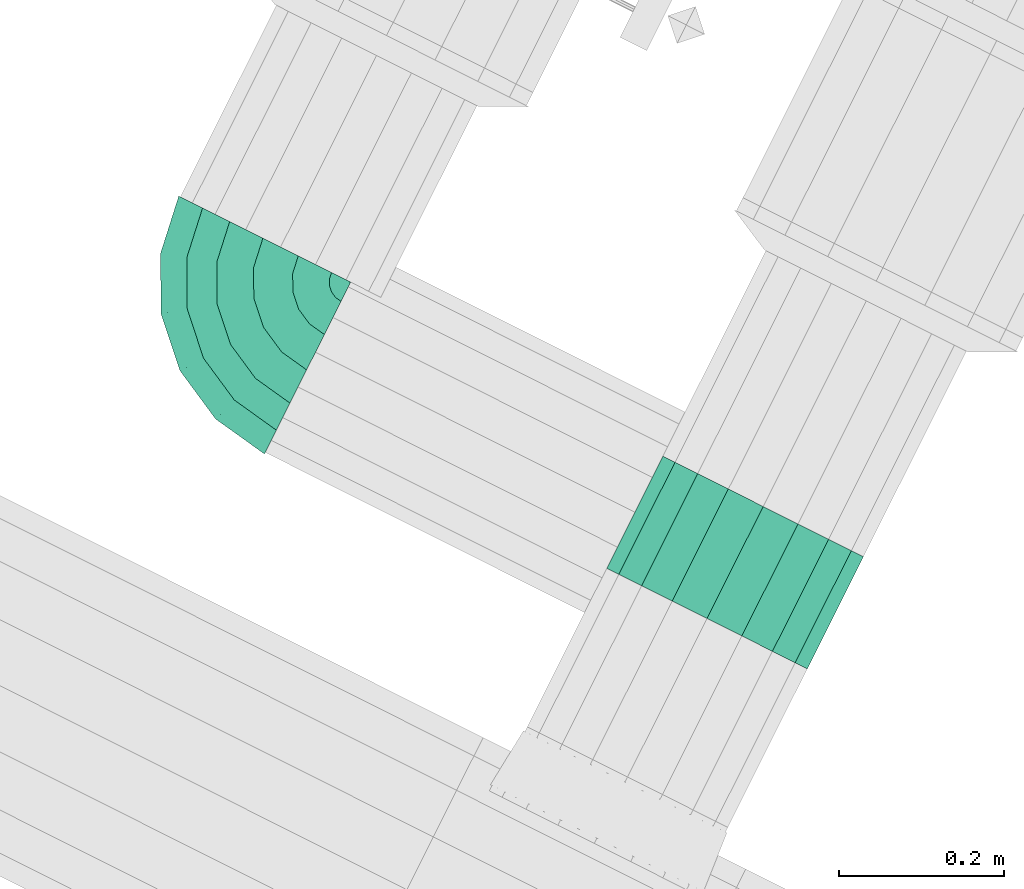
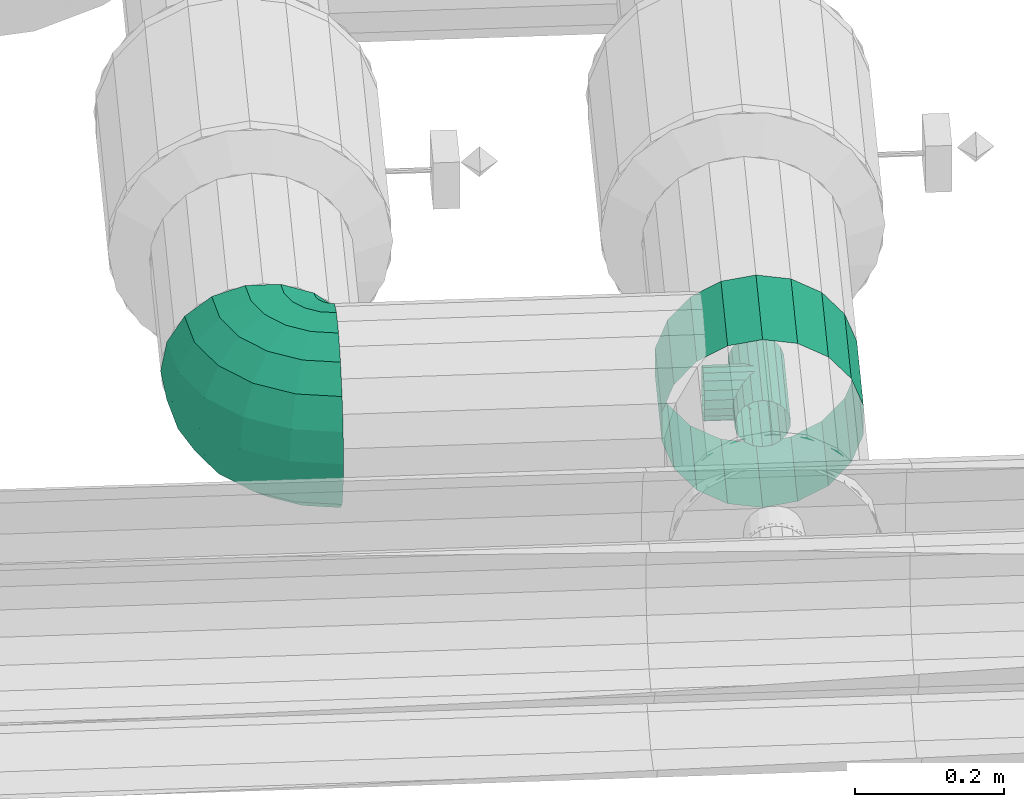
# One storey, part 37 of 152: 1 flow fitting, 1 flow segment.
"""IFC2X3 building model written with IfcOpenShell, lengths in metres."""

import ifcopenshell
import ifcopenshell.guid

model = None  # the IFC model being written
_history = None  # IfcOwnerHistory: only IFC2X3 demands one
_inside = {}  # id of a spatial element -> (the spatial element, [elements in it])
_under = {}  # id of a project, library or spatial element -> (it, [spatial elements below it])
_declared = {}  # id of a project -> (the project, [libraries it declares])
_typed = {}  # id of a type object -> (the type object, [elements of that type])
_made_of = {}  # id of a material, layer set ... -> (it, [elements and type objects made of it])


def new_model(schema):
    """Start an empty IFC model of exactly this schema.

    Asked for "IFC4X3", IfcOpenShell would pick the latest addendum, in which some entities
    have other attributes; the version numbers below select the first issue.
    IFC2X3 requires an IfcOwnerHistory on every rooted entity: one is made here for all.
    """
    global model, _history
    if schema == "IFC4X3":
        model = ifcopenshell.file(schema_version=(4, 3, 0, 0))
    else:
        model = ifcopenshell.file(schema=schema)
    _inside.clear()
    _under.clear()
    _declared.clear()
    _typed.clear()
    _made_of.clear()
    _history = None
    if model.schema == "IFC2X3":
        org = make("IfcOrganization", Name="unknown")
        user = make(
            "IfcPersonAndOrganization",
            ThePerson=make("IfcPerson", FamilyName="unknown"),
            TheOrganization=org,
        )
        app = make(
            "IfcApplication",
            ApplicationDeveloper=org,
            Version="unknown",
            ApplicationFullName="unknown",
            ApplicationIdentifier="unknown",
        )
        _history = make(
            "IfcOwnerHistory",
            OwningUser=user,
            OwningApplication=app,
            ChangeAction="ADDED",
            CreationDate=0,
        )
    return model


def make(cls, **values):
    """One entity of the class cls with the attributes given. An attribute that is None is left unset."""
    return model.create_entity(
        cls, **{name: value for name, value in values.items() if value is not None}
    )


def rooted(cls, **values):
    """An entity with a GlobalId (a new one), such as an element, a storey or a relation."""
    return make(cls, GlobalId=ifcopenshell.guid.new(), OwnerHistory=_history, **values)


def si_unit(unit_type, name, prefix=None):
    """IfcSIUnit, for example si_unit("LENGTHUNIT", "METRE", prefix="MILLI")."""
    return make("IfcSIUnit", UnitType=unit_type, Prefix=prefix, Name=name)


def derived_unit(unit_type, elements):
    """IfcDerivedUnit: a product of units, each with its exponent."""
    return make(
        "IfcDerivedUnit",
        Elements=[
            make("IfcDerivedUnitElement", Unit=unit, Exponent=power)
            for unit, power in elements
        ],
        UnitType=unit_type,
    )


def assignment(units):
    """IfcUnitAssignment: the units of a project."""
    return None if units is None else make("IfcUnitAssignment", Units=units)


def point(xyz):
    """IfcCartesianPoint."""
    return None if xyz is None else make("IfcCartesianPoint", Coordinates=xyz)


def direction(xyz):
    """IfcDirection."""
    return None if xyz is None else make("IfcDirection", DirectionRatios=xyz)


def frame(location, z_axis=None, x_axis=None):
    """IfcAxis2Placement3D, a coordinate frame: its origin and axes. An axis left out is left unset."""
    return make(
        "IfcAxis2Placement3D",
        Location=point(location),
        Axis=direction(z_axis),
        RefDirection=direction(x_axis),
    )


def origin():
    """The frame at (0, 0, 0) with its axes left unset."""
    return frame((0.0, 0.0, 0.0))


def place(relative_to, where):
    """IfcLocalPlacement: puts the frame where relative to a parent placement (None: the world)."""
    return make(
        "IfcLocalPlacement", PlacementRelTo=relative_to, RelativePlacement=where
    )


def context(
    kind, dimensions, precision=None, world=None, true_north=None, identifier=None
):
    """IfcGeometricRepresentationContext, for example the 3D "Model" context."""
    return make(
        "IfcGeometricRepresentationContext",
        ContextIdentifier=identifier,
        ContextType=kind,
        CoordinateSpaceDimension=dimensions,
        Precision=precision,
        WorldCoordinateSystem=world,
        TrueNorth=true_north,
    )


def subcontext(parent, identifier, kind, view, scale=None):
    """IfcGeometricRepresentationSubContext, for example "Body" below "Model"."""
    return make(
        "IfcGeometricRepresentationSubContext",
        ContextIdentifier=identifier,
        ContextType=kind,
        ParentContext=parent,
        TargetScale=scale,
        TargetView=view,
    )


def project(units=None, contexts=None):
    """IfcProject with its units and contexts."""
    return rooted(
        "IfcProject",
        Name="project",
        RepresentationContexts=contexts,
        UnitsInContext=assignment(units),
    )


def spatial(cls, under=None, at=None, **own):
    """A site, building, storey or space (cls), placed at a placement, below another one or the project."""
    s = rooted(cls, ObjectPlacement=at, **own)
    if under is not None:
        _under.setdefault(under.id(), (under, []))[1].append(s)
    return s


def faces_of(points, faces, orient=None, outer=None):
    """IfcFace entities. A face is a list of loops; a loop is a list of indices into points, from 0.

    orient and outer hold one flag for each loop. By default every Orientation is true, the
    first loop of a face is its IfcFaceOuterBound and the others are IfcFaceBound.
    """
    made = []
    for i, loops in enumerate(faces):
        bounds = []
        for j, loop in enumerate(loops):
            is_outer = j == 0 if outer is None else outer[i][j]
            bounds.append(
                make(
                    "IfcFaceOuterBound" if is_outer else "IfcFaceBound",
                    Bound=make("IfcPolyLoop", Polygon=[points[k] for k in loop]),
                    Orientation=True if orient is None else orient[i][j],
                )
            )
        made.append(make("IfcFace", Bounds=bounds))
    return made


def face_set(faces, orient=None, outer=None):
    """The faces of one IfcConnectedFaceSet. surface_model builds it on its shared points."""
    return ("IfcConnectedFaceSet", faces, orient, outer)


def surface_model(cls, points, shells):
    """IfcFaceBasedSurfaceModel or IfcShellBasedSurfaceModel (cls): surfaces that need not close."""
    shared = [point(p) for p in points]
    made = [make(c, CfsFaces=faces_of(shared, fs, o, b)) for c, fs, o, b in shells]
    if cls == "IfcFaceBasedSurfaceModel":
        return make(cls, FbsmFaces=made)
    return make(cls, SbsmBoundary=made)


def shape(context_of_items, identifier, shape_type, items):
    """IfcShapeRepresentation: the items that make up one representation, for example the "Body"."""
    return make(
        "IfcShapeRepresentation",
        ContextOfItems=context_of_items,
        RepresentationIdentifier=identifier,
        RepresentationType=shape_type,
        Items=items,
    )


def source(mapping_origin, context_of_items, identifier, shape_type, items):
    """IfcRepresentationMap: a shape defined once, which mapped items show again and again."""
    return make(
        "IfcRepresentationMap",
        MappingOrigin=mapping_origin,
        MappedRepresentation=shape(context_of_items, identifier, shape_type, items),
    )


def transform(
    local_origin,
    x_axis=None,
    y_axis=None,
    z_axis=None,
    scale=None,
    scale2=None,
    scale3=None,
    uniform=True,
):
    """IfcCartesianTransformationOperator3D, or its non-uniform kind. x_axis, y_axis, z_axis: its Axis1, 2, 3."""
    if uniform:
        return make(
            "IfcCartesianTransformationOperator3D",
            Axis1=direction(x_axis),
            Axis2=direction(y_axis),
            LocalOrigin=point(local_origin),
            Scale=scale,
            Axis3=direction(z_axis),
        )
    return make(
        "IfcCartesianTransformationOperator3DnonUniform",
        Axis1=direction(x_axis),
        Axis2=direction(y_axis),
        LocalOrigin=point(local_origin),
        Scale=scale,
        Axis3=direction(z_axis),
        Scale2=scale2,
        Scale3=scale3,
    )


def mapped(mapping_source, mapping_target):
    """IfcMappedItem: shows the shape of a source again, moved by a transform."""
    return make(
        "IfcMappedItem", MappingSource=mapping_source, MappingTarget=mapping_target
    )


def material(Name=None, Category=None):
    """IfcMaterial."""
    return make("IfcMaterial", Name=Name, Category=Category)


def made_of(thing, what):
    """Note that an element or type object is made of a material, layer set ...; save() writes the relation."""
    if what is not None:
        _made_of.setdefault(what.id(), (what, []))[1].append(thing)
    return thing


def type_object(cls, material=None, **own):
    """A type object (cls), such as IfcWallType, which elements share."""
    return made_of(rooted(cls, **own), material)


def type_shapes(of_type, sources):
    """Give a type object the sources (RepresentationMaps) that its elements show as mapped items."""
    of_type.RepresentationMaps = sources


def element(
    cls,
    number,
    at=None,
    inside=None,
    cuts=None,
    type_object=None,
    material=None,
    context=None,
    identifier="Body",
    shape_type=None,
    held_by="IfcProductDefinitionShape",
    body=None,
    shapes=None,
    **own,
):
    """One element of the class cls, such as IfcWall. Its Tag is "e" and its number.

    at: its placement. inside: the storey or other place that contains it. cuts: it is an
    opening in that element (IfcRelVoidsElement). A single representation is given by context,
    identifier, shape_type and body (its items); several are given by shapes. held_by: the class
    of the entity that holds the representations. save() writes the other relations.
    """
    e = rooted(cls, Tag="e%d" % number, ObjectPlacement=at, **own)
    if body is not None:
        shapes = [shape(context, identifier, shape_type, body)]
    if shapes is not None:
        e.Representation = make(held_by, Representations=shapes)
    if inside is not None:
        _inside.setdefault(inside.id(), (inside, []))[1].append(e)
    if cuts is not None:
        rooted(
            "IfcRelVoidsElement", RelatingBuildingElement=cuts, RelatedOpeningElement=e
        )
    if type_object is not None:
        _typed.setdefault(type_object.id(), (type_object, []))[1].append(e)
    return made_of(e, material)


def aggregate(whole, parts):
    """IfcRelAggregates: a whole, such as a stair, and the parts it consists of."""
    return rooted("IfcRelAggregates", RelatingObject=whole, RelatedObjects=parts)


def save(model, path):
    """Write the relations noted so far, then the file.

    IfcRelAggregates (storeys below a building ...), IfcRelContainedInSpatialStructure (elements
    in a storey), IfcRelDefinesByType, IfcRelAssociatesMaterial and IfcRelDeclares: one each for
    every whole, place, type object, material and project.
    """
    for whole, parts in _under.values():
        aggregate(whole, parts)
    for where, things in _inside.values():
        rooted(
            "IfcRelContainedInSpatialStructure",
            RelatedElements=things,
            RelatingStructure=where,
        )
    for kind, things in _typed.values():
        rooted("IfcRelDefinesByType", RelatedObjects=things, RelatingType=kind)
    for what, things in _made_of.values():
        rooted("IfcRelAssociatesMaterial", RelatedObjects=things, RelatingMaterial=what)
    for by, libraries in _declared.values():
        rooted("IfcRelDeclares", RelatingContext=by, RelatedDefinitions=libraries)
    model.write(path)


model = new_model("IFC2X3")

# Units and contexts
model_context = context("Model", 3, precision=5.2338327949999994e-05, world=origin(), true_north=direction((0.0, 1.0)))
body_context = subcontext(model_context, "Body", "Model", "MODEL_VIEW")
ifc_project = project(units=[si_unit("LENGTHUNIT", "METRE"), si_unit("AREAUNIT", "SQUARE_METRE"), si_unit("VOLUMEUNIT", "CUBIC_METRE"), si_unit("MASSUNIT", "GRAM", prefix="KILO"), si_unit("PLANEANGLEUNIT", "RADIAN"), derived_unit("THERMALTRANSMITTANCEUNIT", [(si_unit("MASSUNIT", "GRAM", prefix="KILO"), 1), (si_unit("THERMODYNAMICTEMPERATUREUNIT", "KELVIN"), -1), (si_unit("TIMEUNIT", "SECOND"), -3)])], contexts=[model_context])

# Site, building, storey
site_placement = place(None, frame((0.0, 0.0, 0.0), z_axis=(0.0, 0.0, 1.0), x_axis=(0.8939966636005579, -0.4480736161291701, 0.0)))
site = spatial("IfcSite", under=ifc_project, at=site_placement, Name="Default", CompositionType="ELEMENT")
building_placement = place(site_placement, origin())
building = spatial("IfcBuilding", under=site, at=building_placement, CompositionType="ELEMENT")
storey_placement = place(building_placement, frame((0.0, 0.0, 2.7499999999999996)))
storey = spatial("IfcBuildingStorey", under=building, at=storey_placement, Name="1. Obergeschoss", CompositionType="ELEMENT", Elevation=2.7499999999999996)

# Flow segment
ifc_material = material(Name="IfcSurfaceStyle #1741")
distribution_element_type_1 = type_object("IfcDistributionElementType", Name="Rohrbogen 259180:Rohrbogen 259180", material=ifc_material)
shared_shape_1 = source(origin(), body_context, "Body", "SurfaceModel", [
    surface_model("IfcFaceBasedSurfaceModel", [(14.447154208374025, 6.358211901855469, 5.63564089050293), (14.488269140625, 6.351700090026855, 5.63564089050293), (14.447863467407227, 6.3603943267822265, 5.648654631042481), (14.488269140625, 6.353994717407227, 5.648654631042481), (14.410064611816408, 6.3771101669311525, 5.63564089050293), (14.41141336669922, 6.378967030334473, 5.648654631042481), (14.38062919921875, 6.406544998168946, 5.63564089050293), (14.382486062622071, 6.407893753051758, 5.648654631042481), (14.36173151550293, 6.443635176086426, 5.63564089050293), (14.363913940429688, 6.444344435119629, 5.648654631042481), (14.355219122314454, 6.484750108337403, 5.63564089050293), (14.357514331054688, 6.484750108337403, 5.648654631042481), (14.449905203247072, 6.366678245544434, 5.660098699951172), (14.488269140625, 6.360601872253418, 5.660098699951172), (14.415296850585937, 6.384312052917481, 5.660098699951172), (14.387831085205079, 6.41177781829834, 5.660098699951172), (14.370197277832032, 6.446386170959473, 5.660098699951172), (14.364120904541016, 6.484750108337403, 5.660098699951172), (14.488269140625, 6.3707250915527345, 5.668592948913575), (14.453032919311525, 6.376306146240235, 5.668592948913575), (14.421246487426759, 6.392501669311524, 5.668592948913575), (14.396021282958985, 6.417728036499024, 5.668592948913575), (14.37982459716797, 6.449514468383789, 5.668592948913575), (14.37424354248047, 6.484750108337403, 5.668592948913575), (14.488269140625, 6.383142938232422, 5.673112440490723), (14.456871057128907, 6.38811589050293, 5.673112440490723), (14.428546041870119, 6.402548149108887, 5.673112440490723), (14.406067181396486, 6.42502700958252, 5.673112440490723), (14.391634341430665, 6.453351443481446, 5.673112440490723), (14.386661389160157, 6.484750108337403, 5.673112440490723), (14.488269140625, 6.396357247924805, 5.673112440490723), (14.460954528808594, 6.400683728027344, 5.673112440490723), (14.436313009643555, 6.413238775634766, 5.673112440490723), (14.416758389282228, 6.432793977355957, 5.673112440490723), (14.404202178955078, 6.457435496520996, 5.673112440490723), (14.399876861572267, 6.484750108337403, 5.673112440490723), (14.46479150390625, 6.4124934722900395, 5.668592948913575), (14.488269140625, 6.408775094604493, 5.668592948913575), (14.443612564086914, 6.42328525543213, 5.668592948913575), (14.426804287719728, 6.440092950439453, 5.668592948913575), (14.4160130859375, 6.461272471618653, 5.668592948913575), (14.412293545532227, 6.484750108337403, 5.668592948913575), (14.488269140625, 6.418898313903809, 5.660098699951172), (14.467919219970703, 6.42212137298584, 5.660098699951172), (14.449562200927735, 6.431474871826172, 5.660098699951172), (14.434993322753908, 6.446043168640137, 5.660098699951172), (14.425640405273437, 6.464400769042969, 5.660098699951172), (14.422417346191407, 6.484750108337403, 5.660098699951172), (14.488269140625, 6.42550546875, 5.648654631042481), (14.469960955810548, 6.428405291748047, 5.648654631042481), (14.453445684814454, 6.43681989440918, 5.648654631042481), (14.440339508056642, 6.449926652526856, 5.648654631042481), (14.431923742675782, 6.466442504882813, 5.648654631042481), (14.429023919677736, 6.484750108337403, 5.648654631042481), (14.488269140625, 6.427800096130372, 5.63564089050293), (14.47067021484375, 6.4305871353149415, 5.63564089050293), (14.454794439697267, 6.4386767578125, 5.63564089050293), (14.442195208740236, 6.451275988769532, 5.63564089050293), (14.43410616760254, 6.467151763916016, 5.63564089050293), (14.43131912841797, 6.484750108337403, 5.63564089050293), (14.488269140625, 6.42550546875, 5.622627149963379), (14.469960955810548, 6.428405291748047, 5.622627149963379), (14.453445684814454, 6.43681989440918, 5.622627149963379), (14.440339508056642, 6.449926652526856, 5.622627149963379), (14.431923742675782, 6.466442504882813, 5.622627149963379), (14.429023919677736, 6.484750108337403, 5.622627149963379), (14.467919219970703, 6.42212137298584, 5.6111824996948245), (14.488269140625, 6.418898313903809, 5.6111824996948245), (14.449562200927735, 6.431474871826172, 5.6111824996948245), (14.434993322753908, 6.446043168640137, 5.6111824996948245), (14.425640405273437, 6.464400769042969, 5.6111824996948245), (14.422417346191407, 6.484750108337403, 5.6111824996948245), (14.488269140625, 6.408775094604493, 5.602688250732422), (14.46479150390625, 6.4124934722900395, 5.602688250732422), (14.443612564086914, 6.42328525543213, 5.602688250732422), (14.426804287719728, 6.440092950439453, 5.602688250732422), (14.4160130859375, 6.461272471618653, 5.602688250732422), (14.412293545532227, 6.484750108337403, 5.602688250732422), (14.460954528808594, 6.400683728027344, 5.598168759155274), (14.488269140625, 6.396357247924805, 5.598168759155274), (14.436313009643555, 6.413238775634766, 5.598168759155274), (14.416758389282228, 6.432793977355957, 5.598168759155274), (14.404202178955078, 6.457435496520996, 5.598168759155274), (14.399876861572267, 6.484750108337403, 5.598168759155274), (14.456871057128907, 6.38811589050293, 5.598168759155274), (14.488269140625, 6.383142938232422, 5.598168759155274), (14.428546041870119, 6.402548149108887, 5.598168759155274), (14.406067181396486, 6.42502700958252, 5.598168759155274), (14.391634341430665, 6.453351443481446, 5.598168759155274), (14.386661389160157, 6.484750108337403, 5.598168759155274), (14.453032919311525, 6.376306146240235, 5.602688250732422), (14.488269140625, 6.3707250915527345, 5.602688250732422), (14.421246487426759, 6.392501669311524, 5.602688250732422), (14.396021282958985, 6.417728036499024, 5.602688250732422), (14.37982459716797, 6.449514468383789, 5.602688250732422), (14.37424354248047, 6.484750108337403, 5.602688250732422), (14.449905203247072, 6.366678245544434, 5.6111824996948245), (14.488269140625, 6.360601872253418, 5.6111824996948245), (14.415296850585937, 6.384312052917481, 5.6111824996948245), (14.387831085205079, 6.41177781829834, 5.6111824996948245), (14.370197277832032, 6.446386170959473, 5.6111824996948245), (14.364120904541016, 6.484750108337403, 5.6111824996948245), (14.488269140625, 6.353994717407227, 5.622627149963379), (14.447863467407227, 6.3603943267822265, 5.622627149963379), (14.41141336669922, 6.378967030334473, 5.622627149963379), (14.382486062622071, 6.407893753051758, 5.622627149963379), (14.363913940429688, 6.444344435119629, 5.622627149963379), (14.357514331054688, 6.484750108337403, 5.622627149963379), (14.416252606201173, 6.263106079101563, 5.63564089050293), (14.488269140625, 6.251699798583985, 5.63564089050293), (14.418825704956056, 6.271024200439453, 5.68285661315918), (14.488269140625, 6.260025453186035, 5.68285661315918), (14.351285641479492, 6.296208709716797, 5.63564089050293), (14.356179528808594, 6.302944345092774, 5.68285661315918), (14.299727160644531, 6.347766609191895, 5.63564089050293), (14.306462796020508, 6.352660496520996, 5.68285661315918), (14.266625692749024, 6.412733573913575, 5.63564089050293), (14.274543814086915, 6.415306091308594, 5.68285661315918), (14.255219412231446, 6.484750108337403, 5.63564089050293), (14.263544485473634, 6.484750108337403, 5.68285661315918), (14.488269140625, 6.283997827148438, 5.724377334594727), (14.426233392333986, 6.293823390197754, 5.724377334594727), (14.370269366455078, 6.322337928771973, 5.724377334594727), (14.325856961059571, 6.366750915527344, 5.724377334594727), (14.297342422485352, 6.422714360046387, 5.724377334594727), (14.287516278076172, 6.484750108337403, 5.724377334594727), (14.488269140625, 6.3207252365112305, 5.755195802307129), (14.437582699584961, 6.328753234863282, 5.755195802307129), (14.391857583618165, 6.352051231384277, 5.755195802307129), (14.355570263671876, 6.388338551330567, 5.755195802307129), (14.332271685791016, 6.434063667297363, 5.755195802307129), (14.324244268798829, 6.484750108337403, 5.755195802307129), (14.488269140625, 6.3657777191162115, 5.77159363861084), (14.45150510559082, 6.371600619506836, 5.77159363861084), (14.418338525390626, 6.388499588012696, 5.77159363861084), (14.39201803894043, 6.414820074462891, 5.77159363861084), (14.375120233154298, 6.44798549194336, 5.77159363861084), (14.369297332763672, 6.484750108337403, 5.77159363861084), (14.488269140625, 6.413722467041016, 5.77159363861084), (14.466320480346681, 6.417198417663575, 5.77159363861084), (14.446520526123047, 6.4272873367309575, 5.77159363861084), (14.430806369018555, 6.443000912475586, 5.77159363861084), (14.420717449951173, 6.462801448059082, 5.77159363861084), (14.417240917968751, 6.484750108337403, 5.77159363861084), (14.488269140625, 6.4587749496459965, 5.755195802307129), (14.48024288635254, 6.460046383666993, 5.755195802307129), (14.473001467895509, 6.463735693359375, 5.755195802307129), (14.467255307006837, 6.469482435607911, 5.755195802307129), (14.463564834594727, 6.476723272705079, 5.755195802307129), (14.462293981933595, 6.484750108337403, 5.755195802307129), (14.488269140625, 6.484750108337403, 5.733400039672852), (14.485835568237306, 6.484750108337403, 5.733723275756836), (14.488269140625, 6.484750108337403, 5.537881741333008), (14.485835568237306, 6.484750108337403, 5.537558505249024), (14.48024288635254, 6.460046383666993, 5.51608597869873), (14.488269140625, 6.4587749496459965, 5.51608597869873), (14.473001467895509, 6.463735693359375, 5.51608597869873), (14.467255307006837, 6.469482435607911, 5.51608597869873), (14.463564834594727, 6.476723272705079, 5.51608597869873), (14.462293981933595, 6.484750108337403, 5.51608597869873), (14.466320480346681, 6.417198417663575, 5.49968814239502), (14.488269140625, 6.413722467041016, 5.49968814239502), (14.446520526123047, 6.4272873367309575, 5.49968814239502), (14.430806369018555, 6.443000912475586, 5.49968814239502), (14.420717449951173, 6.462801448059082, 5.49968814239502), (14.417240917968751, 6.484750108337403, 5.49968814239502), (14.45150510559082, 6.371600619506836, 5.49968814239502), (14.488269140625, 6.3657777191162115, 5.49968814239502), (14.418338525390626, 6.388499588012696, 5.49968814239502), (14.39201803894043, 6.414820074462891, 5.49968814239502), (14.375120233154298, 6.44798549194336, 5.49968814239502), (14.369297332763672, 6.484750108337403, 5.49968814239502), (14.437582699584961, 6.328753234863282, 5.51608597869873), (14.488269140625, 6.3207252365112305, 5.51608597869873), (14.391857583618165, 6.352051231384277, 5.51608597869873), (14.355570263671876, 6.388338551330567, 5.51608597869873), (14.332271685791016, 6.434063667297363, 5.51608597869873), (14.324244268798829, 6.484750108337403, 5.51608597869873), (14.426233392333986, 6.293823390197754, 5.54690386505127), (14.488269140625, 6.283997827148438, 5.54690386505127), (14.370269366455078, 6.322337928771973, 5.54690386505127), (14.325856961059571, 6.366750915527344, 5.54690386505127), (14.297342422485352, 6.422714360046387, 5.54690386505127), (14.287516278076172, 6.484750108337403, 5.54690386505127), (14.418825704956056, 6.271024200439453, 5.58842516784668), (14.488269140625, 6.260025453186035, 5.58842516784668), (14.356179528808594, 6.302944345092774, 5.58842516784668), (14.306462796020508, 6.352660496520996, 5.58842516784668), (14.274543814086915, 6.415306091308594, 5.58842516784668), (14.263544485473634, 6.484750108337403, 5.58842516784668)], [face_set([[[0, 1, 2]], [[3, 2, 1]], [[4, 0, 2]], [[2, 5, 4]], [[6, 4, 5]], [[5, 7, 6]], [[8, 6, 7]], [[7, 9, 8]], [[10, 8, 9]], [[9, 11, 10]], [[2, 3, 12]], [[13, 12, 3]], [[5, 2, 14]], [[12, 14, 2]], [[7, 5, 15]], [[14, 15, 5]], [[9, 7, 16]], [[15, 16, 7]], [[11, 9, 17]], [[16, 17, 9]], [[12, 13, 18]], [[18, 19, 12]], [[14, 12, 19]], [[19, 20, 14]], [[15, 14, 20]], [[20, 21, 15]], [[16, 15, 22]], [[21, 22, 15]], [[17, 16, 22]], [[22, 23, 17]], [[19, 18, 24]], [[24, 25, 19]], [[20, 19, 26]], [[25, 26, 19]], [[21, 20, 27]], [[26, 27, 20]], [[22, 21, 28]], [[27, 28, 21]], [[23, 22, 29]], [[28, 29, 22]], [[25, 24, 30]], [[30, 31, 25]], [[26, 25, 31]], [[31, 32, 26]], [[27, 26, 32]], [[32, 33, 27]], [[28, 27, 33]], [[33, 34, 28]], [[29, 28, 34]], [[34, 35, 29]], [[31, 30, 36]], [[37, 36, 30]], [[32, 31, 38]], [[36, 38, 31]], [[33, 32, 39]], [[38, 39, 32]], [[34, 33, 40]], [[39, 40, 33]], [[35, 34, 41]], [[40, 41, 34]], [[36, 37, 42]], [[42, 43, 36]], [[38, 36, 44]], [[43, 44, 36]], [[39, 38, 44]], [[44, 45, 39]], [[40, 39, 45]], [[45, 46, 40]], [[41, 40, 46]], [[46, 47, 41]], [[43, 42, 48]], [[48, 49, 43]], [[44, 43, 49]], [[49, 50, 44]], [[45, 44, 50]], [[50, 51, 45]], [[46, 45, 52]], [[51, 52, 45]], [[47, 46, 53]], [[52, 53, 46]], [[49, 48, 54]], [[54, 55, 49]], [[50, 49, 56]], [[55, 56, 49]], [[51, 50, 57]], [[56, 57, 50]], [[52, 51, 57]], [[57, 58, 52]], [[53, 52, 58]], [[58, 59, 53]], [[55, 54, 60]], [[60, 61, 55]], [[56, 55, 61]], [[61, 62, 56]], [[57, 56, 63]], [[62, 63, 56]], [[58, 57, 64]], [[63, 64, 57]], [[59, 58, 65]], [[64, 65, 58]], [[61, 60, 66]], [[67, 66, 60]], [[62, 61, 68]], [[66, 68, 61]], [[63, 62, 69]], [[68, 69, 62]], [[64, 63, 70]], [[69, 70, 63]], [[65, 64, 70]], [[70, 71, 65]], [[66, 67, 72]], [[72, 73, 66]], [[68, 66, 73]], [[73, 74, 68]], [[69, 68, 74]], [[74, 75, 69]], [[70, 69, 76]], [[75, 76, 69]], [[71, 70, 77]], [[76, 77, 70]], [[73, 72, 78]], [[79, 78, 72]], [[74, 73, 78]], [[78, 80, 74]], [[75, 74, 80]], [[80, 81, 75]], [[76, 75, 81]], [[81, 82, 76]], [[77, 76, 82]], [[82, 83, 77]], [[78, 79, 84]], [[85, 84, 79]], [[80, 78, 86]], [[84, 86, 78]], [[81, 80, 87]], [[86, 87, 80]], [[82, 81, 88]], [[87, 88, 81]], [[83, 82, 89]], [[88, 89, 82]], [[84, 85, 90]], [[91, 90, 85]], [[86, 84, 90]], [[90, 92, 86]], [[87, 86, 92]], [[92, 93, 87]], [[88, 87, 93]], [[93, 94, 88]], [[89, 88, 94]], [[94, 95, 89]], [[90, 91, 96]], [[97, 96, 91]], [[92, 90, 98]], [[96, 98, 90]], [[93, 92, 99]], [[98, 99, 92]], [[94, 93, 100]], [[99, 100, 93]], [[95, 94, 101]], [[100, 101, 94]], [[96, 97, 102]], [[102, 103, 96]], [[98, 96, 103]], [[103, 104, 98]], [[99, 98, 104]], [[104, 105, 99]], [[100, 99, 105]], [[105, 106, 100]], [[101, 100, 106]], [[106, 107, 101]], [[103, 102, 1]], [[1, 0, 103]], [[104, 103, 4]], [[0, 4, 103]], [[105, 104, 6]], [[4, 6, 104]], [[106, 105, 8]], [[6, 8, 105]], [[107, 106, 10]], [[8, 10, 106]], [[108, 109, 110]], [[111, 110, 109]], [[112, 108, 113]], [[110, 113, 108]], [[114, 112, 115]], [[113, 115, 112]], [[116, 114, 117]], [[115, 117, 114]], [[118, 116, 119]], [[117, 119, 116]], [[110, 111, 120]], [[120, 121, 110]], [[113, 110, 121]], [[121, 122, 113]], [[115, 113, 122]], [[122, 123, 115]], [[117, 115, 123]], [[123, 124, 117]], [[119, 117, 124]], [[124, 125, 119]], [[121, 120, 126]], [[126, 127, 121]], [[122, 121, 127]], [[127, 128, 122]], [[123, 122, 129]], [[128, 129, 122]], [[124, 123, 130]], [[129, 130, 123]], [[125, 124, 130]], [[130, 131, 125]], [[127, 126, 132]], [[132, 133, 127]], [[128, 127, 133]], [[133, 134, 128]], [[129, 128, 135]], [[134, 135, 128]], [[130, 129, 136]], [[135, 136, 129]], [[131, 130, 137]], [[136, 137, 130]], [[133, 132, 138]], [[138, 139, 133]], [[134, 133, 139]], [[139, 140, 134]], [[135, 134, 141]], [[140, 141, 134]], [[136, 135, 142]], [[141, 142, 135]], [[137, 136, 142]], [[142, 143, 137]], [[139, 138, 144]], [[144, 145, 139]], [[140, 139, 145]], [[145, 146, 140]], [[141, 140, 147]], [[146, 147, 140]], [[142, 141, 147]], [[147, 148, 142]], [[143, 142, 149]], [[148, 149, 142]], [[150, 145, 151]], [[150, 151, 144]], [[145, 144, 151]], [[146, 145, 150]], [[147, 146, 150]], [[148, 147, 150]], [[149, 148, 150]], [[152, 153, 154]], [[155, 154, 153]], [[153, 152, 155]], [[154, 156, 152]], [[152, 156, 157]], [[157, 158, 152]], [[158, 159, 152]], [[154, 155, 160]], [[161, 160, 155]], [[156, 154, 162]], [[160, 162, 154]], [[157, 156, 162]], [[162, 163, 157]], [[158, 157, 163]], [[163, 164, 158]], [[159, 158, 165]], [[164, 165, 158]], [[160, 161, 166]], [[167, 166, 161]], [[162, 160, 168]], [[166, 168, 160]], [[163, 162, 168]], [[168, 169, 163]], [[164, 163, 169]], [[169, 170, 164]], [[165, 164, 171]], [[170, 171, 164]], [[166, 167, 172]], [[173, 172, 167]], [[168, 166, 172]], [[172, 174, 168]], [[169, 168, 174]], [[174, 175, 169]], [[170, 169, 175]], [[175, 176, 170]], [[171, 170, 176]], [[176, 177, 171]], [[172, 173, 178]], [[179, 178, 173]], [[174, 172, 180]], [[178, 180, 172]], [[175, 174, 180]], [[180, 181, 175]], [[176, 175, 181]], [[181, 182, 176]], [[177, 176, 183]], [[182, 183, 176]], [[178, 179, 184]], [[185, 184, 179]], [[180, 178, 184]], [[184, 186, 180]], [[181, 180, 187]], [[186, 187, 180]], [[182, 181, 188]], [[187, 188, 181]], [[183, 182, 189]], [[188, 189, 182]], [[184, 185, 108]], [[109, 108, 185]], [[186, 184, 108]], [[108, 112, 186]], [[187, 186, 112]], [[112, 114, 187]], [[188, 187, 114]], [[114, 116, 188]], [[189, 188, 116]], [[116, 118, 189]]])]),
])
type_shapes(distribution_element_type_1, [shared_shape_1])
flow_segment_placement = place(storey_placement, frame((0.0, 0.0, -2.7499999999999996)))
element("IfcFlowSegment", 1, at=flow_segment_placement, inside=storey, type_object=distribution_element_type_1, material=ifc_material, Name="Rohrbogen", ObjectType="Rohrbogen", context=body_context, shape_type="MappedRepresentation", body=[
    mapped(shared_shape_1, transform((0.0, 0.0, 0.0), scale=1.0)),
])

# Flow fitting
distribution_element_type_2 = type_object("IfcDistributionElementType", Name="Abzweigstück 259209:Abzweigstück 259209", material=ifc_material)
shared_shape_2 = source(origin(), body_context, "Body", "SurfaceModel", [
    surface_model("IfcFaceBasedSurfaceModel", [(15.057242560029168, 6.465750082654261, 5.597590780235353), (15.070256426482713, 6.465750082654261, 5.5998854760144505), (15.070256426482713, 6.313750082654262, 5.5998854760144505), (15.057242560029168, 6.313750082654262, 5.597590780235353), (15.08170062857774, 6.465750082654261, 5.606492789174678), (15.08170062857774, 6.313750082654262, 5.606492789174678), (15.090194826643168, 6.465750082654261, 5.616615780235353), (15.090194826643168, 6.313750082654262, 5.616615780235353), (15.094714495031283, 6.465750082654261, 5.629033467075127), (15.094714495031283, 6.313750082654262, 5.629033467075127), (15.094714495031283, 6.465750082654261, 5.6422480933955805), (15.094714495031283, 6.313750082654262, 5.6422480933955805), (15.090194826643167, 6.465750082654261, 5.654665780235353), (15.090194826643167, 6.313750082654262, 5.654665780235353), (15.08170062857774, 6.465750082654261, 5.66478877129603), (15.08170062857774, 6.313750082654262, 5.66478877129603), (15.07025642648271, 6.465750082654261, 5.671396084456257), (15.07025642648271, 6.313750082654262, 5.671396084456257), (15.057242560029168, 6.465750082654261, 5.673690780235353), (15.057242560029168, 6.313750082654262, 5.673690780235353), (15.044228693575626, 6.465750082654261, 5.671396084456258), (15.044228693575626, 6.313750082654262, 5.671396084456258), (15.032784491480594, 6.465750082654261, 5.664788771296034), (15.032784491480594, 6.313750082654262, 5.664788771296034), (15.02429029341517, 6.465750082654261, 5.654665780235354), (15.02429029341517, 6.313750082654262, 5.654665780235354), (15.019770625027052, 6.465750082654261, 5.642248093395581), (15.019770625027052, 6.313750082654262, 5.642248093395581), (15.019770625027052, 6.465750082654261, 5.6290334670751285), (15.019770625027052, 6.313750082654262, 5.6290334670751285), (15.02429029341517, 6.465750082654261, 5.616615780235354), (15.02429029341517, 6.313750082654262, 5.616615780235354), (15.032784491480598, 6.465750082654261, 5.606492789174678), (15.032784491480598, 6.313750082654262, 5.606492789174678), (15.044228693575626, 6.465750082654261, 5.599885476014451), (15.044228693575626, 6.313750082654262, 5.599885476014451), (15.019192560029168, 6.351700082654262, 5.635640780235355), (15.021487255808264, 6.353994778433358, 5.648654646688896), (14.98124256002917, 6.353994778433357, 5.6486546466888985), (14.98124256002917, 6.351700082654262, 5.635640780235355), (15.028094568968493, 6.360602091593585, 5.660098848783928), (14.981242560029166, 6.360602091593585, 5.660098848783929), (15.03821756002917, 6.370725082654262, 5.668593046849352), (14.98124256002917, 6.370725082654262, 5.668593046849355), (15.050635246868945, 6.383142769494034, 5.673112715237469), (14.981242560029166, 6.383142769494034, 5.67311271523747), (15.050635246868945, 6.39635739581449, 5.673112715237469), (14.981242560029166, 6.39635739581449, 5.673112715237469), (15.03821756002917, 6.408775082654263, 5.668593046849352), (14.98124256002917, 6.408775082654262, 5.668593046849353), (15.028094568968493, 6.4188980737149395, 5.660098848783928), (14.981242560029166, 6.4188980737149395, 5.660098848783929), (15.021487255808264, 6.425505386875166, 5.648654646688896), (14.98124256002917, 6.425505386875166, 5.6486546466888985), (15.019192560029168, 6.4278000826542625, 5.635640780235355), (14.98124256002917, 6.4278000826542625, 5.635640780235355), (15.021487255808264, 6.425505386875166, 5.622626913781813), (14.981242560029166, 6.425505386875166, 5.622626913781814), (15.028094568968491, 6.4188980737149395, 5.611182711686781), (14.98124256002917, 6.4188980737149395, 5.611182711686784), (15.03821756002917, 6.408775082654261, 5.602688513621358), (14.981242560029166, 6.408775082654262, 5.6026885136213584), (15.050635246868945, 6.39635739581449, 5.598168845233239), (14.98124256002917, 6.39635739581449, 5.598168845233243), (15.050635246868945, 6.383142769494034, 5.598168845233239), (14.98124256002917, 6.383142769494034, 5.598168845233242), (15.03821756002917, 6.370725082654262, 5.602688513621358), (14.981242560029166, 6.370725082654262, 5.6026885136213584), (15.028094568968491, 6.360602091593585, 5.611182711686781), (14.98124256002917, 6.3606020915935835, 5.611182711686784), (15.021487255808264, 6.353994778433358, 5.622626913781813), (14.981242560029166, 6.353994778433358, 5.622626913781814), (15.057242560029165, 6.465750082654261, 5.497590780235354), (15.104458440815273, 6.465750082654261, 5.505916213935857), (15.104458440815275, 6.313750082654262, 5.50591621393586), (15.057242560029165, 6.313750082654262, 5.497590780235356), (15.145979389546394, 6.465750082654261, 5.529888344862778), (15.145979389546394, 6.313750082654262, 5.529888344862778), (15.176797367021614, 6.465750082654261, 5.566615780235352), (15.176797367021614, 6.313750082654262, 5.566615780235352), (15.1931952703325, 6.465750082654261, 5.611668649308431), (15.1931952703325, 6.313750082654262, 5.611668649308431), (15.193195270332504, 6.465750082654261, 5.659612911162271), (15.193195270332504, 6.313750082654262, 5.659612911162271), (15.176797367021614, 6.465750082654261, 5.704665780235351), (15.176797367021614, 6.313750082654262, 5.704665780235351), (15.145979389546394, 6.465750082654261, 5.741393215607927), (15.145979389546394, 6.313750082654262, 5.741393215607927), (15.104458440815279, 6.465750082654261, 5.765365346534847), (15.104458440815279, 6.313750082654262, 5.765365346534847), (15.057242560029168, 6.465750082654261, 5.773690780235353), (15.057242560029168, 6.313750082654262, 5.773690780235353), (15.010026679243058, 6.465750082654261, 5.76536534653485), (15.010026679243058, 6.313750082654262, 5.76536534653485), (14.968505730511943, 6.465750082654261, 5.741393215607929), (14.968505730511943, 6.313750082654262, 5.741393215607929), (14.937687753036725, 6.465750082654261, 5.704665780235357), (14.937687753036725, 6.313750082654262, 5.704665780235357), (14.921289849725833, 6.465750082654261, 5.659612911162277), (14.921289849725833, 6.313750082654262, 5.659612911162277), (14.92128984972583, 6.465750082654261, 5.611668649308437), (14.92128984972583, 6.313750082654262, 5.611668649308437), (14.937687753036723, 6.465750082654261, 5.566615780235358), (14.937687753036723, 6.313750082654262, 5.566615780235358), (14.96850573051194, 6.465750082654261, 5.529888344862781), (14.96850573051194, 6.313750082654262, 5.529888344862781), (15.01002667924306, 6.465750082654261, 5.505916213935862), (15.01002667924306, 6.313750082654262, 5.505916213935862)], [face_set([[[0, 1, 2, 3]], [[1, 4, 5, 2]], [[4, 6, 7, 5]], [[6, 8, 9, 7]], [[8, 10, 11, 9]], [[10, 12, 13, 11]], [[12, 14, 15, 13]], [[14, 16, 17, 15]], [[16, 18, 19, 17]], [[18, 20, 21, 19]], [[20, 22, 23, 21]], [[22, 24, 25, 23]], [[24, 26, 27, 25]], [[26, 28, 29, 27]], [[28, 30, 31, 29]], [[30, 32, 33, 31]], [[32, 34, 35, 33]], [[34, 0, 3, 35]], [[36, 37, 38, 39]], [[37, 40, 41, 38]], [[40, 42, 43, 41]], [[42, 44, 45, 43]], [[44, 46, 47, 45]], [[46, 48, 49, 47]], [[48, 50, 51, 49]], [[50, 52, 53, 51]], [[52, 54, 55, 53]], [[54, 56, 57, 55]], [[56, 58, 59, 57]], [[58, 60, 61, 59]], [[60, 62, 63, 61]], [[62, 64, 65, 63]], [[64, 66, 67, 65]], [[66, 68, 69, 67]], [[68, 70, 71, 69]], [[70, 36, 39, 71]], [[72, 73, 74, 75]], [[73, 76, 77, 74]], [[76, 78, 79, 77]], [[78, 80, 81, 79]], [[80, 82, 83, 81]], [[82, 84, 85, 83]], [[84, 86, 87, 85]], [[86, 88, 89, 87]], [[88, 90, 91, 89]], [[90, 92, 93, 91]], [[92, 94, 95, 93]], [[94, 96, 97, 95]], [[96, 98, 99, 97]], [[98, 100, 101, 99]], [[100, 102, 103, 101]], [[102, 104, 105, 103]], [[104, 106, 107, 105]], [[106, 72, 75, 107]]])]),
])
type_shapes(distribution_element_type_2, [shared_shape_2])
flow_fitting_placement = place(storey_placement, frame((0.0, 0.0, -2.7499999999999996)))
element("IfcFlowFitting", 2, at=flow_fitting_placement, inside=storey, type_object=distribution_element_type_2, material=ifc_material, Name="Abzweigstück", ObjectType="Abzweigstück", context=body_context, shape_type="MappedRepresentation", body=[
    mapped(shared_shape_2, transform((0.0, 0.0, 0.0), scale=1.0)),
])

save(model, "model.ifc")
